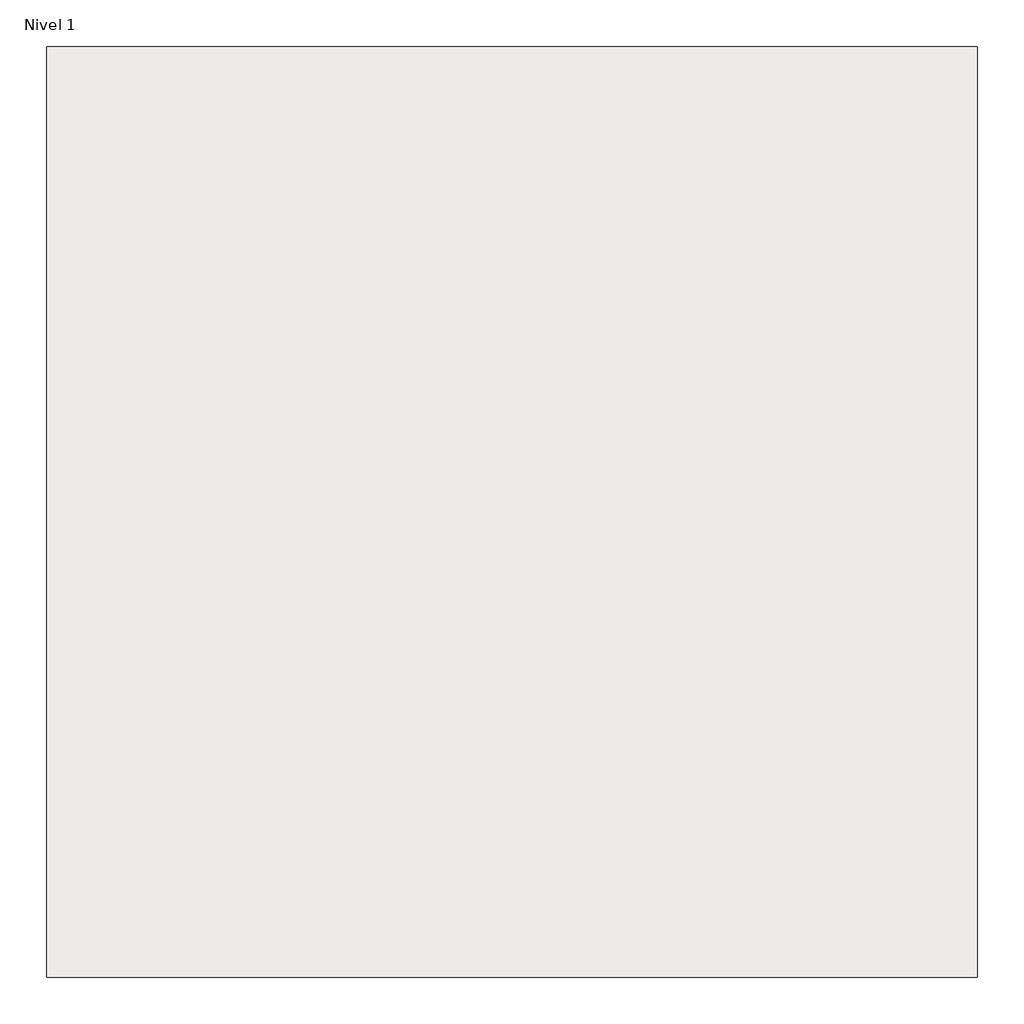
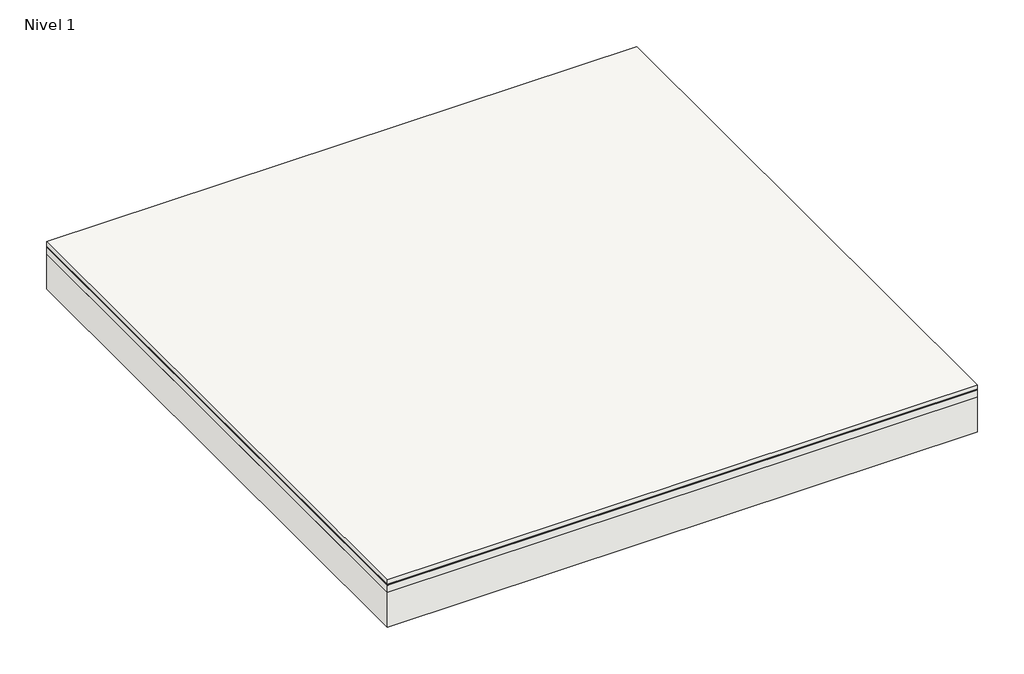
# One storey: 1 roof.
"""IFC4 building model written with IfcOpenShell, lengths in millimetres."""

from ifc_helpers import new_model, si_unit, frame, origin, origin_with_axes, place, context, project, spatial, polyline, outline, extrude, element, save

model = new_model("IFC4")

# Units and contexts
model_context = context("Model", 3, world=origin())
ifc_project = project(units=[si_unit("LENGTHUNIT", "METRE", prefix="MILLI")], contexts=[model_context])

# Site, building, storey
site = spatial("IfcSite", under=ifc_project)
building = spatial("IfcBuilding", under=site)
storey = spatial("IfcBuildingStorey", under=building, Name="Nivel 1", Elevation=0.0)

# Roof
placement = place(None, origin())
element("IfcRoof", 1, ObjectType="CubiertaPlanaConvenTrans-PeatonesPúblico_SoladoFijoBaldosaCeramica_BCTIB7SA", at=placement, inside=storey, context=model_context, shape_type="SweptSolid", body=[
    extrude(outline(polyline([(-2544.9527165, -3086.8428917), (-6544.9527165, -3086.8428917), (-6544.9527165, 913.1571083), (-2544.9527165, 913.1571083), (-2544.9527165, -3086.8428917)])), frame((0.0, 0.0, 308.0), z_axis=(0.0, 0.0, 1.0), x_axis=(1.0, 0.0, 0.0)), (0.0, 0.0, 1.0), 30.0),
    extrude(outline(polyline([(-2544.9527165, -3086.8428917), (-6544.9527165, -3086.8428917), (-6544.9527165, 913.1571083), (-2544.9527165, 913.1571083), (-2544.9527165, -3086.8428917)])), frame((0.0, 0.0, 306.0), z_axis=(0.0, 0.0, 1.0), x_axis=(1.0, 0.0, 0.0)), (0.0, 0.0, 1.0), 2.0),
    extrude(outline(polyline([(-2544.9527165, -3086.8428917), (-6544.9527165, -3086.8428917), (-6544.9527165, 913.1571083), (-2544.9527165, 913.1571083), (-2544.9527165, -3086.8428917)])), frame((0.0, 0.0, 304.0), z_axis=(0.0, 0.0, 1.0), x_axis=(1.0, 0.0, 0.0)), (0.0, 0.0, 1.0), 2.0),
    extrude(outline(polyline([(-2544.9527165, -3086.8428917), (-6544.9527165, -3086.8428917), (-6544.9527165, 913.1571083), (-2544.9527165, 913.1571083), (-2544.9527165, -3086.8428917)])), frame((0.0, 0.0, 302.0), z_axis=(0.0, 0.0, 1.0), x_axis=(1.0, 0.0, 0.0)), (0.0, 0.0, 1.0), 2.0),
    extrude(outline(polyline([(-2544.9527165, -3086.8428917), (-6544.9527165, -3086.8428917), (-6544.9527165, 913.1571083), (-2544.9527165, 913.1571083), (-2544.9527165, -3086.8428917)])), frame((0.0, 0.0, 300.0), z_axis=(0.0, 0.0, 1.0), x_axis=(1.0, 0.0, 0.0)), (0.0, 0.0, 1.0), 2.0),
    extrude(outline(polyline([(-2544.9527165, -3086.8428917), (-6544.9527165, -3086.8428917), (-6544.9527165, 913.1571083), (-2544.9527165, 913.1571083), (-2544.9527165, -3086.8428917)])), frame((0.0, 0.0, 250.0), z_axis=(0.0, 0.0, 1.0), x_axis=(1.0, 0.0, 0.0)), (0.0, 0.0, 1.0), 50.0),
    extrude(outline(polyline([(-2544.9527165, -3086.8428917), (-6544.9527165, -3086.8428917), (-6544.9527165, 913.1571083), (-2544.9527165, 913.1571083), (-2544.9527165, -3086.8428917)])), origin_with_axes(), (0.0, 0.0, 1.0), 250.0),
])

save(model, "model.ifc")
